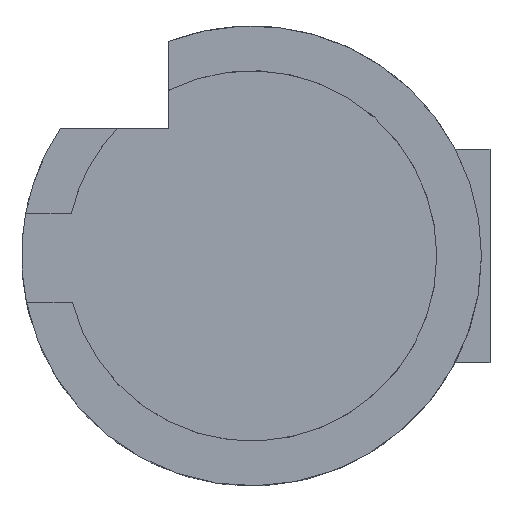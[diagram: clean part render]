
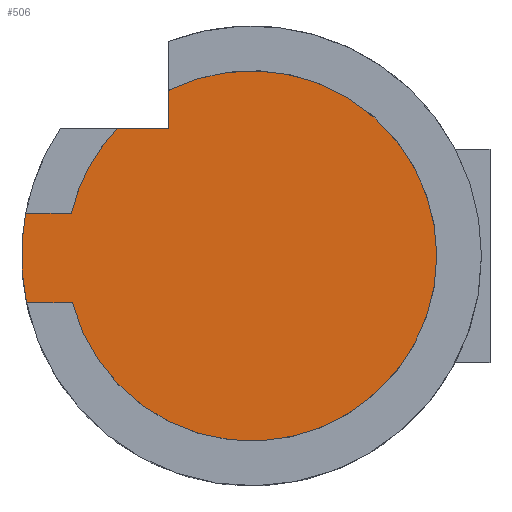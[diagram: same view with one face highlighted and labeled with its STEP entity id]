
A CAD part, top view. The second image highlights one B-rep face of the part: STEP entity #506.
In plain terms, the highlighted planar face has unit normal (0, 0, 1).
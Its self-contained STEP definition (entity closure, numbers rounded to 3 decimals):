
#212 = VERTEX_POINT('',#213);
#213 = CARTESIAN_POINT('',(3.45,8.399,1.1)
  );
#237 = VERTEX_POINT('',#238);
#238 = CARTESIAN_POINT('',(2.25,8.399,1.1)
  );
#244 = EDGE_CURVE('',#212,#237,#245,.T.);
#245 = LINE('',#246,#247);
#246 = CARTESIAN_POINT('',(2.6,8.399,1.1)
  );
#247 = VECTOR('',#248,1.);
#248 = DIRECTION('',(-1.,0.,0.));
#277 = VERTEX_POINT('',#278);
#278 = CARTESIAN_POINT('',(3.45,9.288,1.1)
  );
#284 = EDGE_CURVE('',#212,#277,#285,.T.);
#285 = LINE('',#286,#287);
#286 = CARTESIAN_POINT('',(3.45,6.899,1.1)
  );
#287 = VECTOR('',#288,1.);
#288 = DIRECTION('',(0.,1.,0.));
#308 = EDGE_CURVE('',#237,#309,#311,.T.);
#309 = VERTEX_POINT('',#310);
#310 = CARTESIAN_POINT('',(1.166,6.399,1.1)
  );
#311 = CIRCLE('',#312,4.35);
#312 = AXIS2_PLACEMENT_3D('',#313,#314,#315);
#313 = CARTESIAN_POINT('',(5.4,5.399,1.1)
  );
#314 = DIRECTION('',(0.,0.,1.));
#315 = DIRECTION('',(1.,0.,0.));
#407 = EDGE_CURVE('',#408,#410,#412,.T.);
#408 = VERTEX_POINT('',#409);
#409 = CARTESIAN_POINT('',(0.113,4.299,1.1)
  );
#410 = VERTEX_POINT('',#411);
#411 = CARTESIAN_POINT('',(1.191,4.299,1.1)
  );
#412 = LINE('',#413,#414);
#413 = CARTESIAN_POINT('',(-0.1,4.299,1.1
    ));
#414 = VECTOR('',#415,1.);
#415 = DIRECTION('',(1.,0.,0.));
#438 = EDGE_CURVE('',#439,#309,#441,.T.);
#439 = VERTEX_POINT('',#440);
#440 = CARTESIAN_POINT('',(0.093,6.399,
    1.1));
#441 = LINE('',#442,#443);
#442 = CARTESIAN_POINT('',(-0.1,6.399,1.1
    ));
#443 = VECTOR('',#444,1.);
#444 = DIRECTION('',(1.,0.,0.));
#506 = ADVANCED_FACE('',(#507),#555,.T.);
#507 = FACE_BOUND('',#508,.T.);
#508 = EDGE_LOOP('',(#509,#518,#527,#536,#543,#544,#545,#546,#547,#554)
  );
#509 = ORIENTED_EDGE('',*,*,#510,.T.);
#510 = EDGE_CURVE('',#410,#511,#513,.T.);
#511 = VERTEX_POINT('',#512);
#512 = CARTESIAN_POINT('',(8.96,2.899,1.1)
  );
#513 = CIRCLE('',#514,4.35);
#514 = AXIS2_PLACEMENT_3D('',#515,#516,#517);
#515 = CARTESIAN_POINT('',(5.4,5.399,1.1)
  );
#516 = DIRECTION('',(0.,0.,1.));
#517 = DIRECTION('',(1.,0.,0.));
#518 = ORIENTED_EDGE('',*,*,#519,.T.);
#519 = EDGE_CURVE('',#511,#520,#522,.T.);
#520 = VERTEX_POINT('',#521);
#521 = CARTESIAN_POINT('',(9.75,5.399,1.1)
  );
#522 = CIRCLE('',#523,4.35);
#523 = AXIS2_PLACEMENT_3D('',#524,#525,#526);
#524 = CARTESIAN_POINT('',(5.4,5.399,1.1)
  );
#525 = DIRECTION('',(0.,0.,1.));
#526 = DIRECTION('',(1.,0.,0.));
#527 = ORIENTED_EDGE('',*,*,#528,.T.);
#528 = EDGE_CURVE('',#520,#529,#531,.T.);
#529 = VERTEX_POINT('',#530);
#530 = CARTESIAN_POINT('',(8.96,7.899,1.1)
  );
#531 = CIRCLE('',#532,4.35);
#532 = AXIS2_PLACEMENT_3D('',#533,#534,#535);
#533 = CARTESIAN_POINT('',(5.4,5.399,1.1)
  );
#534 = DIRECTION('',(0.,0.,1.));
#535 = DIRECTION('',(1.,0.,0.));
#536 = ORIENTED_EDGE('',*,*,#537,.T.);
#537 = EDGE_CURVE('',#529,#277,#538,.T.);
#538 = CIRCLE('',#539,4.35);
#539 = AXIS2_PLACEMENT_3D('',#540,#541,#542);
#540 = CARTESIAN_POINT('',(5.4,5.399,1.1)
  );
#541 = DIRECTION('',(0.,0.,1.));
#542 = DIRECTION('',(1.,0.,0.));
#543 = ORIENTED_EDGE('',*,*,#284,.F.);
#544 = ORIENTED_EDGE('',*,*,#244,.T.);
#545 = ORIENTED_EDGE('',*,*,#308,.T.);
#546 = ORIENTED_EDGE('',*,*,#438,.F.);
#547 = ORIENTED_EDGE('',*,*,#548,.T.);
#548 = EDGE_CURVE('',#439,#408,#549,.T.);
#549 = CIRCLE('',#550,5.4);
#550 = AXIS2_PLACEMENT_3D('',#551,#552,#553);
#551 = CARTESIAN_POINT('',(5.4,5.399,1.1)
  );
#552 = DIRECTION('',(0.,0.,1.));
#553 = DIRECTION('',(1.,0.,0.));
#554 = ORIENTED_EDGE('',*,*,#407,.T.);
#555 = PLANE('',#556);
#556 = AXIS2_PLACEMENT_3D('',#557,#558,#559);
#557 = CARTESIAN_POINT('',(4.958,5.501,1.1)
  );
#558 = DIRECTION('',(0.,0.,1.));
#559 = DIRECTION('',(1.,0.,0.));
